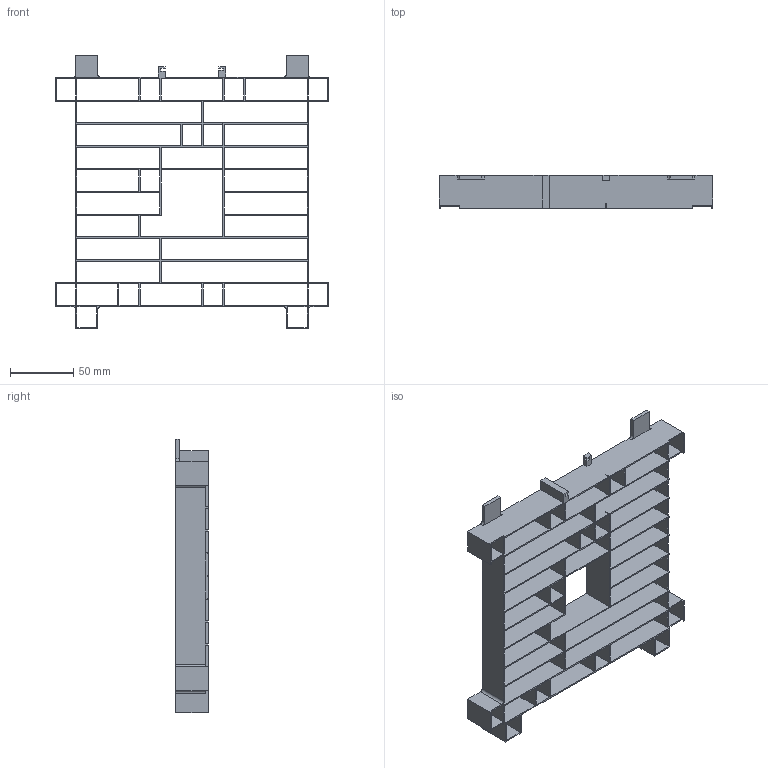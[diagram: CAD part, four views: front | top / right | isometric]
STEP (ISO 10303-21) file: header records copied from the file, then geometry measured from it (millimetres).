
FILE_DESCRIPTION(/* description */ (''),/* implementation_level */ '2;1');
FILE_NAME(/* name */ 'C:/Users/haller/Dropbox/CWC_CheapWordClock/3D daten/Lichtgitter v38.step',/* time_stamp */ '2017-10-11T14:35:31+02:00',/* author */ (''),/* organization */ (''),/* preprocessor_version */ 'ST-DEVELOPER v16.13',/* originating_system */ 'Autodesk Translation Framework v6.1.1.50',/* authorisation */ '');
FILE_SCHEMA (('AUTOMOTIVE_DESIGN { 1 0 10303 214 3 1 1 }'));
Length unit declared in the file: millimetre
Products named in the file (1): Lichtgitter v38
Bounding box: 216 x 26 x 216 mm (x, y, z)
Volume: 79036.5 mm3; surface area: 157943.5 mm2
Topology: 1 solids, 1 shells, 249 faces, 795 edges, 522 vertices
Faces by surface type: plane 237, cylinder 12
Entity records: 8751 total; most frequent: ORIENTED_EDGE 1590, CARTESIAN_POINT 1567, DIRECTION 1319, EDGE_CURVE 795, LINE 771, VECTOR 771, VERTEX_POINT 522, EDGE_LOOP 297
